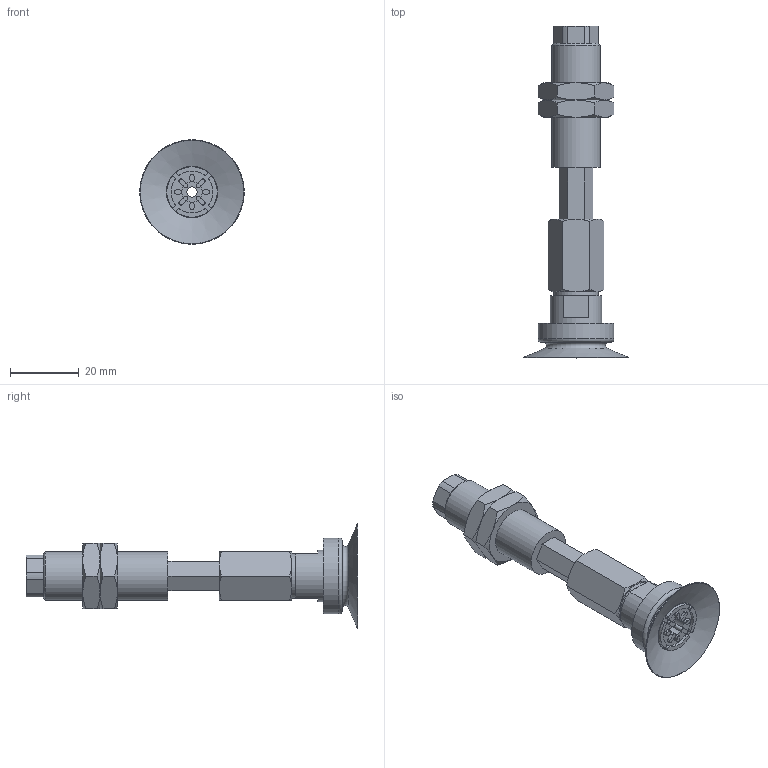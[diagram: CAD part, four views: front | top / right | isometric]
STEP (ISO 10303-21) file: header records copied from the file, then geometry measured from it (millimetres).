
FILE_DESCRIPTION(('STEP AP203'),'1');
FILE_NAME('.stp','2025-08-26T08:05:16',(' '),(' '),'Spatial InterOp 3D',' ',' ');
FILE_SCHEMA(('CONFIG_CONTROL_DESIGN'));
Length unit declared in the file: millimetre
Products named in the file (6): BNABPATH-30-15-※; ADAPTER; NAPATH-30-15--M; Nut-25-S; NAPATH-30-15--F; BPAG-30-※
Assembly tree (6 placements, depth 2):
  BNABPATH-30-15-※
    ADAPTER
    NAPATH-30-15--M
    Nut-25-S  x2
    NAPATH-30-15--F
    BPAG-30-※
Bounding box: 30.3 x 96.2 x 30.3 mm (x, y, z)
Volume: 15891.5 mm3; surface area: 11776.8 mm2
Topology: 6 solids, 6 shells, 192 faces, 453 edges, 286 vertices
Faces by surface type: plane 89, cylinder 55, cone 46, torus 2
Full cylindrical faces by diameter (mm): 3 x3, 4.134 x1, 4.6 x1, 4.917 x1, 6 x1, 12.917 x2, 13 x1, 14 x1, 15 x1, 22 x1
Entity records: 5331 total; most frequent: CARTESIAN_POINT 1146, DIRECTION 837, ORIENTED_EDGE 758, EDGE_CURVE 379, AXIS2_PLACEMENT_3D 330, VERTEX_POINT 255, EDGE_LOOP 214, FACE_OUTER_BOUND 183
